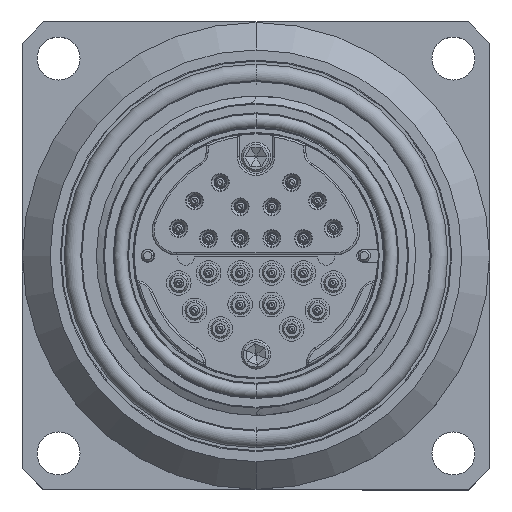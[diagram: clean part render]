
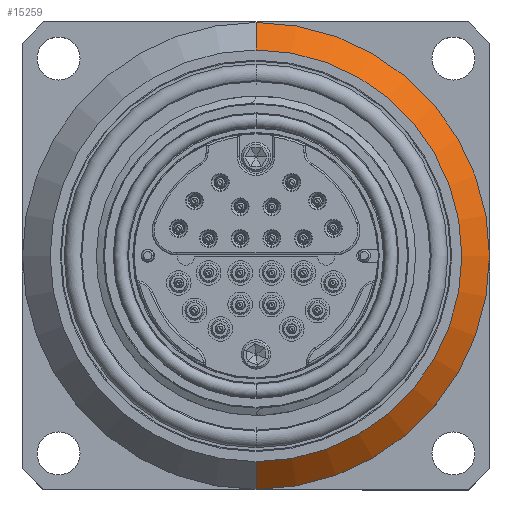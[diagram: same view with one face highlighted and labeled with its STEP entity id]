
A CAD part, top view. The second image highlights one B-rep face of the part: STEP entity #15259.
In plain terms, the highlighted conical face has half-angle 45 degrees and reference radius 30.035 mm.
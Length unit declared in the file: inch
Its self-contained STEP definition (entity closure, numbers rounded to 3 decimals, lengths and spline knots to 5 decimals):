
#1562 = DIRECTION ( 'NONE',  ( 0., 1., 0. ) ) ;
#1667 = ORIENTED_EDGE ( 'NONE', *, *, #27965, .T. ) ;
#1889 = DIRECTION ( 'NONE',  ( 0., 0.707, -0.707 ) ) ;
#3040 = CARTESIAN_POINT ( 'NONE',  ( 0., 0., -0.56222 ) ) ;
#3578 = VERTEX_POINT ( 'NONE', #10667 ) ;
#3700 = FACE_OUTER_BOUND ( 'NONE', #4937, .T. ) ;
#4773 = DIRECTION ( 'NONE',  ( 0., -0.707, -0.707 ) ) ;
#4937 = EDGE_LOOP ( 'NONE', ( #24523, #1667, #24365, #8258 ) ) ;
#6146 = DIRECTION ( 'NONE',  ( 0., 1., 0. ) ) ;
#7065 = LINE ( 'NONE', #21147, #10235 ) ;
#8258 = ORIENTED_EDGE ( 'NONE', *, *, #9852, .F. ) ;
#9339 = CARTESIAN_POINT ( 'NONE',  ( 0., 1.1825, -0.70222 ) ) ;
#9488 = VERTEX_POINT ( 'NONE', #25651 ) ;
#9852 = EDGE_CURVE ( 'NONE', #9488, #12719, #30088, .T. ) ;
#10235 = VECTOR ( 'NONE', #4773, 39.37008 ) ;
#10667 = CARTESIAN_POINT ( 'NONE',  ( 0., -1.1825, -0.70222 ) ) ;
#11031 = CARTESIAN_POINT ( 'NONE',  ( 0., -1.0425, -0.56222 ) ) ;
#11678 = CARTESIAN_POINT ( 'NONE',  ( 0., 1.1825, -0.70222 ) ) ;
#11748 = CIRCLE ( 'NONE', #13203, 1.1825 ) ;
#12157 = AXIS2_PLACEMENT_3D ( 'NONE', #17626, #26986, #1562 ) ;
#12719 = VERTEX_POINT ( 'NONE', #9339 ) ;
#13203 = AXIS2_PLACEMENT_3D ( 'NONE', #20089, #27130, #6146 ) ;
#15259 = ADVANCED_FACE ( 'NONE', ( #3700 ), #17440, .T. ) ;
#15888 = EDGE_CURVE ( 'NONE', #9488, #25620, #17000, .T. ) ;
#17000 = CIRCLE ( 'NONE', #28761, 1.0425 ) ;
#17252 = DIRECTION ( 'NONE',  ( 0., 1., 0. ) ) ;
#17440 = CONICAL_SURFACE ( 'NONE', #12157, 1.1825, 0.785 ) ;
#17626 = CARTESIAN_POINT ( 'NONE',  ( 0., 0., -0.70222 ) ) ;
#19701 = DIRECTION ( 'NONE',  ( 0., 0., -1. ) ) ;
#20089 = CARTESIAN_POINT ( 'NONE',  ( 0., 0., -0.70222 ) ) ;
#21147 = CARTESIAN_POINT ( 'NONE',  ( 0., -1.1825, -0.70222 ) ) ;
#24365 = ORIENTED_EDGE ( 'NONE', *, *, #25566, .F. ) ;
#24523 = ORIENTED_EDGE ( 'NONE', *, *, #15888, .T. ) ;
#25566 = EDGE_CURVE ( 'NONE', #12719, #3578, #11748, .T. ) ;
#25620 = VERTEX_POINT ( 'NONE', #11031 ) ;
#25651 = CARTESIAN_POINT ( 'NONE',  ( 0., 1.0425, -0.56222 ) ) ;
#26526 = VECTOR ( 'NONE', #1889, 39.37008 ) ;
#26986 = DIRECTION ( 'NONE',  ( 0., 0., -1. ) ) ;
#27130 = DIRECTION ( 'NONE',  ( 0., 0., -1. ) ) ;
#27965 = EDGE_CURVE ( 'NONE', #25620, #3578, #7065, .T. ) ;
#28761 = AXIS2_PLACEMENT_3D ( 'NONE', #3040, #19701, #17252 ) ;
#30088 = LINE ( 'NONE', #11678, #26526 ) ;
